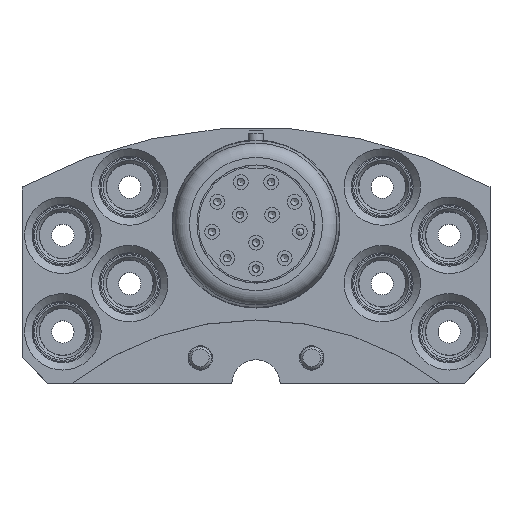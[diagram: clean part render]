
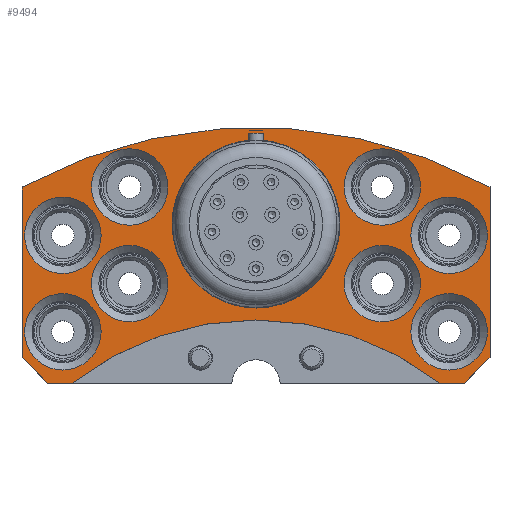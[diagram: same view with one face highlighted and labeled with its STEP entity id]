
A CAD part, top view. The second image highlights one B-rep face of the part: STEP entity #9494.
In plain terms, the highlighted planar face has unit normal (0, 0, 1).
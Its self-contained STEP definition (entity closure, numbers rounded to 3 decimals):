
#236=FACE_BOUND('',#1418,.T.);
#237=FACE_BOUND('',#1419,.T.);
#238=FACE_BOUND('',#1420,.T.);
#239=FACE_BOUND('',#1421,.T.);
#240=FACE_BOUND('',#1422,.T.);
#241=FACE_BOUND('',#1423,.T.);
#242=FACE_BOUND('',#1424,.T.);
#243=FACE_BOUND('',#1425,.T.);
#244=FACE_BOUND('',#1426,.T.);
#375=PLANE('',#10558);
#847=FACE_OUTER_BOUND('',#1417,.T.);
#1417=EDGE_LOOP('',(#7372,#7373,#7374,#7375,#7376,#7377,#7378,#7379));
#1418=EDGE_LOOP('',(#7380,#7381));
#1419=EDGE_LOOP('',(#7382));
#1420=EDGE_LOOP('',(#7383));
#1421=EDGE_LOOP('',(#7384));
#1422=EDGE_LOOP('',(#7385));
#1423=EDGE_LOOP('',(#7386));
#1424=EDGE_LOOP('',(#7387));
#1425=EDGE_LOOP('',(#7388));
#1426=EDGE_LOOP('',(#7389));
#2149=CIRCLE('',#10430,40.1);
#2174=CIRCLE('',#10465,5.15);
#2179=CIRCLE('',#10472,5.15);
#2184=CIRCLE('',#10479,5.15);
#2189=CIRCLE('',#10486,5.15);
#2194=CIRCLE('',#10493,5.15);
#2199=CIRCLE('',#10500,5.15);
#2204=CIRCLE('',#10507,5.15);
#2209=CIRCLE('',#10514,5.15);
#2226=CIRCLE('',#10559,66.);
#2227=CIRCLE('',#10560,11.3);
#2228=CIRCLE('',#10561,11.3);
#2646=LINE('',#16807,#3165);
#2656=LINE('',#16827,#3175);
#2694=LINE('',#17071,#3213);
#2697=LINE('',#17077,#3216);
#2702=LINE('',#17086,#3221);
#2703=LINE('',#17090,#3222);
#3165=VECTOR('',#12582,10.);
#3175=VECTOR('',#12594,10.);
#3213=VECTOR('',#12892,10.);
#3216=VECTOR('',#12897,10.);
#3221=VECTOR('',#12904,10.);
#3222=VECTOR('',#12909,10.);
#4013=VERTEX_POINT('',#16803);
#4015=VERTEX_POINT('',#16806);
#4020=VERTEX_POINT('',#16817);
#4024=VERTEX_POINT('',#16825);
#4048=VERTEX_POINT('',#16896);
#4053=VERTEX_POINT('',#16910);
#4058=VERTEX_POINT('',#16924);
#4063=VERTEX_POINT('',#16938);
#4068=VERTEX_POINT('',#16952);
#4073=VERTEX_POINT('',#16966);
#4078=VERTEX_POINT('',#16980);
#4083=VERTEX_POINT('',#16994);
#4100=VERTEX_POINT('',#17070);
#4102=VERTEX_POINT('',#17076);
#4104=VERTEX_POINT('',#17082);
#4106=VERTEX_POINT('',#17088);
#4107=VERTEX_POINT('',#17091);
#4108=VERTEX_POINT('',#17092);
#5169=EDGE_CURVE('',#4013,#4015,#2646,.T.);
#5179=EDGE_CURVE('',#4024,#4020,#2656,.T.);
#5182=EDGE_CURVE('',#4024,#4015,#2149,.T.);
#5213=EDGE_CURVE('',#4048,#4048,#2174,.T.);
#5220=EDGE_CURVE('',#4053,#4053,#2179,.T.);
#5227=EDGE_CURVE('',#4058,#4058,#2184,.T.);
#5234=EDGE_CURVE('',#4063,#4063,#2189,.T.);
#5241=EDGE_CURVE('',#4068,#4068,#2194,.T.);
#5248=EDGE_CURVE('',#4073,#4073,#2199,.T.);
#5255=EDGE_CURVE('',#4078,#4078,#2204,.T.);
#5262=EDGE_CURVE('',#4083,#4083,#2209,.T.);
#5296=EDGE_CURVE('',#4100,#4013,#2694,.T.);
#5299=EDGE_CURVE('',#4020,#4102,#2697,.T.);
#5304=EDGE_CURVE('',#4102,#4104,#2702,.T.);
#5305=EDGE_CURVE('',#4106,#4104,#2226,.T.);
#5306=EDGE_CURVE('',#4106,#4100,#2703,.T.);
#5307=EDGE_CURVE('',#4107,#4108,#2227,.T.);
#5308=EDGE_CURVE('',#4108,#4107,#2228,.T.);
#7372=ORIENTED_EDGE('',*,*,#5305,.T.);
#7373=ORIENTED_EDGE('',*,*,#5304,.F.);
#7374=ORIENTED_EDGE('',*,*,#5299,.F.);
#7375=ORIENTED_EDGE('',*,*,#5179,.F.);
#7376=ORIENTED_EDGE('',*,*,#5182,.T.);
#7377=ORIENTED_EDGE('',*,*,#5169,.F.);
#7378=ORIENTED_EDGE('',*,*,#5296,.F.);
#7379=ORIENTED_EDGE('',*,*,#5306,.F.);
#7380=ORIENTED_EDGE('',*,*,#5307,.T.);
#7381=ORIENTED_EDGE('',*,*,#5308,.T.);
#7382=ORIENTED_EDGE('',*,*,#5262,.F.);
#7383=ORIENTED_EDGE('',*,*,#5248,.F.);
#7384=ORIENTED_EDGE('',*,*,#5234,.F.);
#7385=ORIENTED_EDGE('',*,*,#5220,.F.);
#7386=ORIENTED_EDGE('',*,*,#5213,.F.);
#7387=ORIENTED_EDGE('',*,*,#5227,.F.);
#7388=ORIENTED_EDGE('',*,*,#5241,.F.);
#7389=ORIENTED_EDGE('',*,*,#5255,.F.);
#9494=ADVANCED_FACE('',(#847,#236,#237,#238,#239,#240,#241,#242,#243,#244),
#375,.T.);
#10430=AXIS2_PLACEMENT_3D('',#16832,#12603,#12604);
#10465=AXIS2_PLACEMENT_3D('',#16897,#12679,#12680);
#10472=AXIS2_PLACEMENT_3D('',#16911,#12695,#12696);
#10479=AXIS2_PLACEMENT_3D('',#16925,#12711,#12712);
#10486=AXIS2_PLACEMENT_3D('',#16939,#12727,#12728);
#10493=AXIS2_PLACEMENT_3D('',#16953,#12743,#12744);
#10500=AXIS2_PLACEMENT_3D('',#16967,#12759,#12760);
#10507=AXIS2_PLACEMENT_3D('',#16981,#12775,#12776);
#10514=AXIS2_PLACEMENT_3D('',#16995,#12791,#12792);
#10558=AXIS2_PLACEMENT_3D('',#17087,#12905,#12906);
#10559=AXIS2_PLACEMENT_3D('',#17089,#12907,#12908);
#10560=AXIS2_PLACEMENT_3D('',#17093,#12910,#12911);
#10561=AXIS2_PLACEMENT_3D('',#17094,#12912,#12913);
#12582=DIRECTION('',(-1.,0.,0.));
#12594=DIRECTION('',(-1.,0.,0.));
#12603=DIRECTION('center_axis',(0.,0.,-1.));
#12604=DIRECTION('ref_axis',(-1.,0.,0.));
#12679=DIRECTION('center_axis',(0.,0.,1.));
#12680=DIRECTION('ref_axis',(-1.,0.,0.));
#12695=DIRECTION('center_axis',(0.,0.,1.));
#12696=DIRECTION('ref_axis',(-1.,0.,0.));
#12711=DIRECTION('center_axis',(0.,0.,1.));
#12712=DIRECTION('ref_axis',(-1.,0.,0.));
#12727=DIRECTION('center_axis',(0.,0.,1.));
#12728=DIRECTION('ref_axis',(-1.,0.,0.));
#12743=DIRECTION('center_axis',(0.,0.,1.));
#12744=DIRECTION('ref_axis',(-1.,0.,0.));
#12759=DIRECTION('center_axis',(0.,0.,1.));
#12760=DIRECTION('ref_axis',(-1.,0.,0.));
#12775=DIRECTION('center_axis',(0.,0.,1.));
#12776=DIRECTION('ref_axis',(-1.,0.,0.));
#12791=DIRECTION('center_axis',(0.,0.,1.));
#12792=DIRECTION('ref_axis',(-1.,0.,0.));
#12892=DIRECTION('',(-0.707,-0.707,0.));
#12897=DIRECTION('',(-0.707,0.707,0.));
#12904=DIRECTION('',(0.,1.,0.));
#12905=DIRECTION('center_axis',(0.,0.,1.));
#12906=DIRECTION('ref_axis',(1.,0.,0.));
#12907=DIRECTION('center_axis',(0.,0.,1.));
#12908=DIRECTION('ref_axis',(0.652,0.759,0.));
#12909=DIRECTION('',(0.,-1.,0.));
#12910=DIRECTION('center_axis',(0.,0.,-1.));
#12911=DIRECTION('ref_axis',(0.,-1.,0.));
#12912=DIRECTION('center_axis',(0.,0.,-1.));
#12913=DIRECTION('ref_axis',(0.,-1.,0.));
#16803=CARTESIAN_POINT('',(28.064,31.6,9.9));
#16806=CARTESIAN_POINT('',(24.687,31.6,9.9));
#16807=CARTESIAN_POINT('',(31.5,31.6,9.9));
#16817=CARTESIAN_POINT('',(-28.064,31.6,9.9));
#16825=CARTESIAN_POINT('',(-24.687,31.6,9.9));
#16827=CARTESIAN_POINT('',(-3.248,31.6,9.9));
#16832=CARTESIAN_POINT('Origin',(0.,0.,9.9));
#16896=CARTESIAN_POINT('',(-20.85,51.5,9.9));
#16897=CARTESIAN_POINT('Origin',(-26.,51.5,9.9));
#16910=CARTESIAN_POINT('',(-20.85,38.5,9.9));
#16911=CARTESIAN_POINT('Origin',(-26.,38.5,9.9));
#16924=CARTESIAN_POINT('',(31.15,51.5,9.9));
#16925=CARTESIAN_POINT('Origin',(26.,51.5,9.9));
#16938=CARTESIAN_POINT('',(-11.85,45.,9.9));
#16939=CARTESIAN_POINT('Origin',(-17.,45.,9.9));
#16952=CARTESIAN_POINT('',(31.15,38.5,9.9));
#16953=CARTESIAN_POINT('Origin',(26.,38.5,9.9));
#16966=CARTESIAN_POINT('',(-11.85,58.,9.9));
#16967=CARTESIAN_POINT('Origin',(-17.,58.,9.9));
#16980=CARTESIAN_POINT('',(22.15,45.,9.9));
#16981=CARTESIAN_POINT('Origin',(17.,45.,9.9));
#16994=CARTESIAN_POINT('',(22.15,58.,9.9));
#16995=CARTESIAN_POINT('Origin',(17.,58.,9.9));
#17070=CARTESIAN_POINT('',(31.5,35.036,9.9));
#17071=CARTESIAN_POINT('',(26.154,29.69,9.9));
#17076=CARTESIAN_POINT('',(-31.5,35.036,9.9));
#17077=CARTESIAN_POINT('',(-26.154,29.69,9.9));
#17082=CARTESIAN_POINT('',(-31.5,57.998,9.9));
#17086=CARTESIAN_POINT('',(-31.5,31.6,9.9));
#17087=CARTESIAN_POINT('Origin',(0.,48.587,
9.9));
#17088=CARTESIAN_POINT('',(31.5,57.998,9.9));
#17089=CARTESIAN_POINT('Origin',(0.,0.,9.9));
#17090=CARTESIAN_POINT('',(31.5,66.,9.9));
#17091=CARTESIAN_POINT('',(0.,41.7,9.9));
#17092=CARTESIAN_POINT('',(0.,64.3,9.9));
#17093=CARTESIAN_POINT('Origin',(0.,53.,9.9));
#17094=CARTESIAN_POINT('Origin',(0.,53.,9.9));
